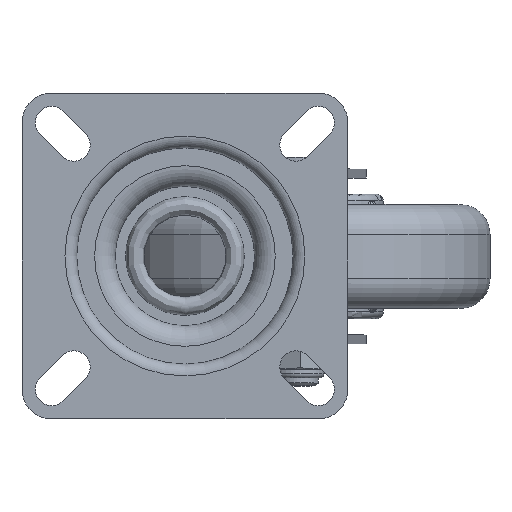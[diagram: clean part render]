
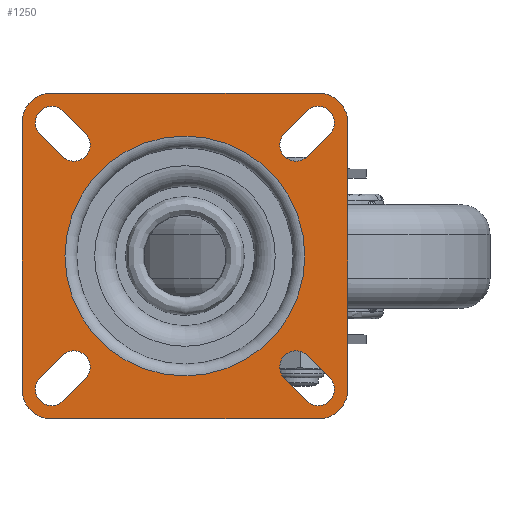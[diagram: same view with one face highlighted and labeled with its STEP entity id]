
A CAD part, top view. The second image highlights one B-rep face of the part: STEP entity #1250.
In plain terms, the highlighted planar face has unit normal (0, 0, 1).
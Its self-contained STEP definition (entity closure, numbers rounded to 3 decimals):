
#1250=ADVANCED_FACE('',(#4098,#4099,#4100,#4101,#4102,#4103),#2033,.T.);
#2033=PLANE('',#12683);
#3099=LINE('',#17442,#3594);
#3100=LINE('',#17447,#3595);
#3101=LINE('',#17453,#3596);
#3102=LINE('',#17457,#3597);
#3103=LINE('',#17458,#3598);
#3104=LINE('',#17463,#3599);
#3105=LINE('',#17467,#3600);
#3106=LINE('',#17471,#3601);
#3107=LINE('',#17477,#3602);
#3108=LINE('',#17481,#3603);
#3109=LINE('',#17482,#3604);
#3110=LINE('',#17487,#3605);
#3594=VECTOR('',#13971,1.);
#3595=VECTOR('',#13974,1.);
#3596=VECTOR('',#13979,1.);
#3597=VECTOR('',#13982,1.);
#3598=VECTOR('',#13983,1.);
#3599=VECTOR('',#13986,1.);
#3600=VECTOR('',#13989,1.);
#3601=VECTOR('',#13992,1.);
#3602=VECTOR('',#13997,1.);
#3603=VECTOR('',#14000,1.);
#3604=VECTOR('',#14001,1.);
#3605=VECTOR('',#14004,1.);
#4098=FACE_BOUND('',#4328,.T.);
#4099=FACE_BOUND('',#4329,.T.);
#4100=FACE_BOUND('',#4330,.T.);
#4101=FACE_BOUND('',#4331,.T.);
#4102=FACE_BOUND('',#4332,.T.);
#4103=FACE_BOUND('',#4333,.T.);
#4328=EDGE_LOOP('',(#5418,#5419,#5420,#5421));
#4329=EDGE_LOOP('',(#5422,#5423,#5424,#5425));
#4330=EDGE_LOOP('',(#5426));
#4331=EDGE_LOOP('',(#5427,#5428,#5429,#5430,#5431,#5432,#5433,#5434));
#4332=EDGE_LOOP('',(#5435,#5436,#5437,#5438));
#4333=EDGE_LOOP('',(#5439,#5440,#5441,#5442));
#5418=ORIENTED_EDGE('',*,*,#10314,.F.);
#5419=ORIENTED_EDGE('',*,*,#10315,.T.);
#5420=ORIENTED_EDGE('',*,*,#10316,.F.);
#5421=ORIENTED_EDGE('',*,*,#10317,.T.);
#5422=ORIENTED_EDGE('',*,*,#10318,.F.);
#5423=ORIENTED_EDGE('',*,*,#10319,.T.);
#5424=ORIENTED_EDGE('',*,*,#10320,.F.);
#5425=ORIENTED_EDGE('',*,*,#10321,.T.);
#5426=ORIENTED_EDGE('',*,*,#10312,.T.);
#5427=ORIENTED_EDGE('',*,*,#10322,.T.);
#5428=ORIENTED_EDGE('',*,*,#10323,.T.);
#5429=ORIENTED_EDGE('',*,*,#10324,.F.);
#5430=ORIENTED_EDGE('',*,*,#10325,.T.);
#5431=ORIENTED_EDGE('',*,*,#10326,.T.);
#5432=ORIENTED_EDGE('',*,*,#10327,.T.);
#5433=ORIENTED_EDGE('',*,*,#10328,.F.);
#5434=ORIENTED_EDGE('',*,*,#10329,.T.);
#5435=ORIENTED_EDGE('',*,*,#10330,.F.);
#5436=ORIENTED_EDGE('',*,*,#10331,.T.);
#5437=ORIENTED_EDGE('',*,*,#10332,.F.);
#5438=ORIENTED_EDGE('',*,*,#10333,.T.);
#5439=ORIENTED_EDGE('',*,*,#10334,.F.);
#5440=ORIENTED_EDGE('',*,*,#10335,.T.);
#5441=ORIENTED_EDGE('',*,*,#10336,.F.);
#5442=ORIENTED_EDGE('',*,*,#10337,.T.);
#9132=VERTEX_POINT('',#17437);
#9134=VERTEX_POINT('',#17443);
#9135=VERTEX_POINT('',#17444);
#9136=VERTEX_POINT('',#17446);
#9137=VERTEX_POINT('',#17448);
#9138=VERTEX_POINT('',#17451);
#9139=VERTEX_POINT('',#17452);
#9140=VERTEX_POINT('',#17454);
#9141=VERTEX_POINT('',#17456);
#9142=VERTEX_POINT('',#17459);
#9143=VERTEX_POINT('',#17460);
#9144=VERTEX_POINT('',#17462);
#9145=VERTEX_POINT('',#17464);
#9146=VERTEX_POINT('',#17466);
#9147=VERTEX_POINT('',#17468);
#9148=VERTEX_POINT('',#17470);
#9149=VERTEX_POINT('',#17472);
#9150=VERTEX_POINT('',#17475);
#9151=VERTEX_POINT('',#17476);
#9152=VERTEX_POINT('',#17478);
#9153=VERTEX_POINT('',#17480);
#9154=VERTEX_POINT('',#17483);
#9155=VERTEX_POINT('',#17484);
#9156=VERTEX_POINT('',#17486);
#9157=VERTEX_POINT('',#17488);
#10312=EDGE_CURVE('',#9132,#9132,#12037,.T.);
#10314=EDGE_CURVE('',#9134,#9135,#3099,.T.);
#10315=EDGE_CURVE('',#9134,#9136,#12039,.T.);
#10316=EDGE_CURVE('',#9137,#9136,#3100,.T.);
#10317=EDGE_CURVE('',#9137,#9135,#12040,.T.);
#10318=EDGE_CURVE('',#9138,#9139,#12041,.T.);
#10319=EDGE_CURVE('',#9138,#9140,#3101,.T.);
#10320=EDGE_CURVE('',#9141,#9140,#12042,.T.);
#10321=EDGE_CURVE('',#9141,#9139,#3102,.T.);
#10322=EDGE_CURVE('',#9142,#9143,#3103,.T.);
#10323=EDGE_CURVE('',#9143,#9144,#12043,.T.);
#10324=EDGE_CURVE('',#9145,#9144,#3104,.T.);
#10325=EDGE_CURVE('',#9145,#9146,#12044,.T.);
#10326=EDGE_CURVE('',#9146,#9147,#3105,.T.);
#10327=EDGE_CURVE('',#9147,#9148,#12045,.T.);
#10328=EDGE_CURVE('',#9149,#9148,#3106,.T.);
#10329=EDGE_CURVE('',#9149,#9142,#12046,.T.);
#10330=EDGE_CURVE('',#9150,#9151,#12047,.T.);
#10331=EDGE_CURVE('',#9150,#9152,#3107,.T.);
#10332=EDGE_CURVE('',#9153,#9152,#12048,.T.);
#10333=EDGE_CURVE('',#9153,#9151,#3108,.T.);
#10334=EDGE_CURVE('',#9154,#9155,#3109,.T.);
#10335=EDGE_CURVE('',#9154,#9156,#12049,.T.);
#10336=EDGE_CURVE('',#9157,#9156,#3110,.T.);
#10337=EDGE_CURVE('',#9157,#9155,#12050,.T.);
#12037=CIRCLE('',#12667,40.5);
#12039=CIRCLE('',#12671,5.5);
#12040=CIRCLE('',#12672,5.5);
#12041=CIRCLE('',#12673,5.5);
#12042=CIRCLE('',#12674,5.5);
#12043=CIRCLE('',#12675,10.);
#12044=CIRCLE('',#12676,10.);
#12045=CIRCLE('',#12677,10.);
#12046=CIRCLE('',#12678,10.);
#12047=CIRCLE('',#12679,5.5);
#12048=CIRCLE('',#12680,5.5);
#12049=CIRCLE('',#12681,5.5);
#12050=CIRCLE('',#12682,5.5);
#12667=AXIS2_PLACEMENT_3D('',#17436,#13963,#13964);
#12671=AXIS2_PLACEMENT_3D('',#17445,#13972,#13973);
#12672=AXIS2_PLACEMENT_3D('',#17449,#13975,#13976);
#12673=AXIS2_PLACEMENT_3D('',#17450,#13977,#13978);
#12674=AXIS2_PLACEMENT_3D('',#17455,#13980,#13981);
#12675=AXIS2_PLACEMENT_3D('',#17461,#13984,#13985);
#12676=AXIS2_PLACEMENT_3D('',#17465,#13987,#13988);
#12677=AXIS2_PLACEMENT_3D('',#17469,#13990,#13991);
#12678=AXIS2_PLACEMENT_3D('',#17473,#13993,#13994);
#12679=AXIS2_PLACEMENT_3D('',#17474,#13995,#13996);
#12680=AXIS2_PLACEMENT_3D('',#17479,#13998,#13999);
#12681=AXIS2_PLACEMENT_3D('',#17485,#14002,#14003);
#12682=AXIS2_PLACEMENT_3D('',#17489,#14005,#14006);
#12683=AXIS2_PLACEMENT_3D('',#17490,#14007,#14008);
#13963=DIRECTION('',(0.,0.,-1.));
#13964=DIRECTION('',(1.,0.,0.));
#13971=DIRECTION('',(0.707,-0.707,0.));
#13972=DIRECTION('',(0.,0.,-1.));
#13973=DIRECTION('',(1.,0.,0.));
#13974=DIRECTION('',(-0.707,0.707,0.));
#13975=DIRECTION('',(0.,0.,-1.));
#13976=DIRECTION('',(1.,0.,0.));
#13977=DIRECTION('',(0.,0.,1.));
#13978=DIRECTION('',(1.,0.,0.));
#13979=DIRECTION('',(0.707,0.707,0.));
#13980=DIRECTION('',(0.,0.,1.));
#13981=DIRECTION('',(1.,0.,0.));
#13982=DIRECTION('',(-0.707,-0.707,0.));
#13983=DIRECTION('',(1.,0.,0.));
#13984=DIRECTION('',(0.,0.,1.));
#13985=DIRECTION('',(1.,0.,0.));
#13986=DIRECTION('',(0.,-1.,0.));
#13987=DIRECTION('',(0.,0.,1.));
#13988=DIRECTION('',(1.,0.,0.));
#13989=DIRECTION('',(-1.,0.,0.));
#13990=DIRECTION('',(0.,0.,1.));
#13991=DIRECTION('',(1.,0.,0.));
#13992=DIRECTION('',(0.,1.,0.));
#13993=DIRECTION('',(0.,0.,1.));
#13994=DIRECTION('',(1.,0.,0.));
#13995=DIRECTION('',(0.,0.,1.));
#13996=DIRECTION('',(-1.,0.,0.));
#13997=DIRECTION('',(-0.707,-0.707,0.));
#13998=DIRECTION('',(0.,0.,1.));
#13999=DIRECTION('',(-1.,0.,0.));
#14000=DIRECTION('',(0.707,0.707,0.));
#14001=DIRECTION('',(-0.707,0.707,0.));
#14002=DIRECTION('',(0.,0.,-1.));
#14003=DIRECTION('',(-1.,0.,0.));
#14004=DIRECTION('',(0.707,-0.707,0.));
#14005=DIRECTION('',(0.,0.,-1.));
#14006=DIRECTION('',(-1.,0.,0.));
#14007=DIRECTION('',(0.,0.,1.));
#14008=DIRECTION('',(-1.,0.,0.));
#17436=CARTESIAN_POINT('',(0.,0.,0.));
#17437=CARTESIAN_POINT('',(40.5,0.,0.));
#17442=CARTESIAN_POINT('',(37.361,-45.139,0.));
#17443=CARTESIAN_POINT('',(33.611,-41.389,0.));
#17444=CARTESIAN_POINT('',(41.111,-48.889,0.));
#17445=CARTESIAN_POINT('',(37.5,-37.5,0.));
#17446=CARTESIAN_POINT('',(41.389,-33.611,0.));
#17447=CARTESIAN_POINT('',(45.139,-37.361,0.));
#17448=CARTESIAN_POINT('',(48.889,-41.111,0.));
#17449=CARTESIAN_POINT('',(45.,-45.,0.));
#17450=CARTESIAN_POINT('',(37.5,37.5,0.));
#17451=CARTESIAN_POINT('',(33.611,41.389,0.));
#17452=CARTESIAN_POINT('',(41.389,33.611,0.));
#17453=CARTESIAN_POINT('',(37.361,45.139,0.));
#17454=CARTESIAN_POINT('',(41.111,48.889,0.));
#17455=CARTESIAN_POINT('',(45.,45.,0.));
#17456=CARTESIAN_POINT('',(48.889,41.111,0.));
#17457=CARTESIAN_POINT('',(45.139,37.361,0.));
#17458=CARTESIAN_POINT('',(-55.,-55.,0.));
#17459=CARTESIAN_POINT('',(-45.,-55.,0.));
#17460=CARTESIAN_POINT('',(45.,-55.,0.));
#17461=CARTESIAN_POINT('',(45.,-45.,0.));
#17462=CARTESIAN_POINT('',(55.,-45.,0.));
#17463=CARTESIAN_POINT('',(55.,0.,0.));
#17464=CARTESIAN_POINT('',(55.,45.,0.));
#17465=CARTESIAN_POINT('',(45.,45.,0.));
#17466=CARTESIAN_POINT('',(45.,55.,0.));
#17467=CARTESIAN_POINT('',(-55.,55.,0.));
#17468=CARTESIAN_POINT('',(-45.,55.,0.));
#17469=CARTESIAN_POINT('',(-45.,45.,0.));
#17470=CARTESIAN_POINT('',(-55.,45.,0.));
#17471=CARTESIAN_POINT('',(-55.,0.,0.));
#17472=CARTESIAN_POINT('',(-55.,-45.,0.));
#17473=CARTESIAN_POINT('',(-45.,-45.,0.));
#17474=CARTESIAN_POINT('',(-37.5,-37.5,0.));
#17475=CARTESIAN_POINT('',(-33.611,-41.389,0.));
#17476=CARTESIAN_POINT('',(-41.389,-33.611,0.));
#17477=CARTESIAN_POINT('',(-37.361,-45.139,0.));
#17478=CARTESIAN_POINT('',(-41.111,-48.889,0.));
#17479=CARTESIAN_POINT('',(-45.,-45.,0.));
#17480=CARTESIAN_POINT('',(-48.889,-41.111,0.));
#17481=CARTESIAN_POINT('',(-45.139,-37.361,0.));
#17482=CARTESIAN_POINT('',(-37.361,45.139,0.));
#17483=CARTESIAN_POINT('',(-33.611,41.389,0.));
#17484=CARTESIAN_POINT('',(-41.111,48.889,0.));
#17485=CARTESIAN_POINT('',(-37.5,37.5,0.));
#17486=CARTESIAN_POINT('',(-41.389,33.611,0.));
#17487=CARTESIAN_POINT('',(-45.139,37.361,0.));
#17488=CARTESIAN_POINT('',(-48.889,41.111,0.));
#17489=CARTESIAN_POINT('',(-45.,45.,0.));
#17490=CARTESIAN_POINT('',(-55.,0.,0.));
